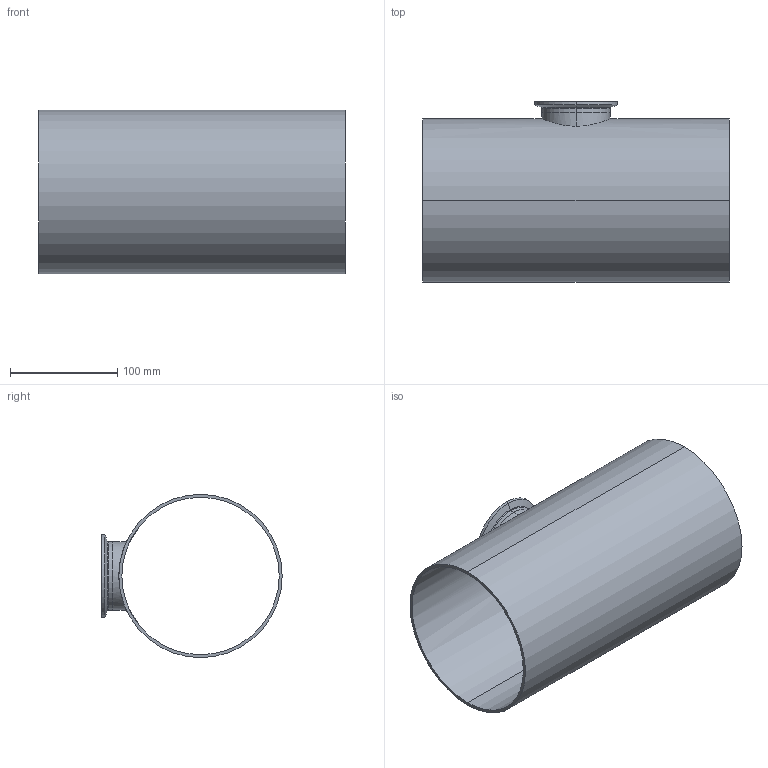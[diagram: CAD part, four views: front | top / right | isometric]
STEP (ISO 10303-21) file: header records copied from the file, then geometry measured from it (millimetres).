
FILE_DESCRIPTION (( 'STEP AP214' ), '1' );
FILE_NAME ('TE7RWWCS6L6.0x2.5-...STEP', '2016-05-23T12:40:24', ( 'eran' ), ( '' ), 'SwSTEP 2.0', 'SolidWorks 2016', '' );
FILE_SCHEMA (( 'AUTOMOTIVE_DESIGN' ));
Length unit declared in the file: millimetre
Products named in the file (1): TE7RWWCS6L6.0x2.5-..
Bounding box: 285.8 x 168.3 x 152.4 mm (x, y, z)
Volume: 376195.4 mm3; surface area: 276944.2 mm2
Topology: 2 solids, 2 shells, 36 faces, 88 edges, 58 vertices
Faces by surface type: cylinder 14, bspline 10, plane 6, cone 6
Entity records: 2058 total; most frequent: CARTESIAN_POINT 1153, DIRECTION 190, ORIENTED_EDGE 176, EDGE_CURVE 88, AXIS2_PLACEMENT_3D 85, CIRCLE 58, VERTEX_POINT 58, EDGE_LOOP 44
